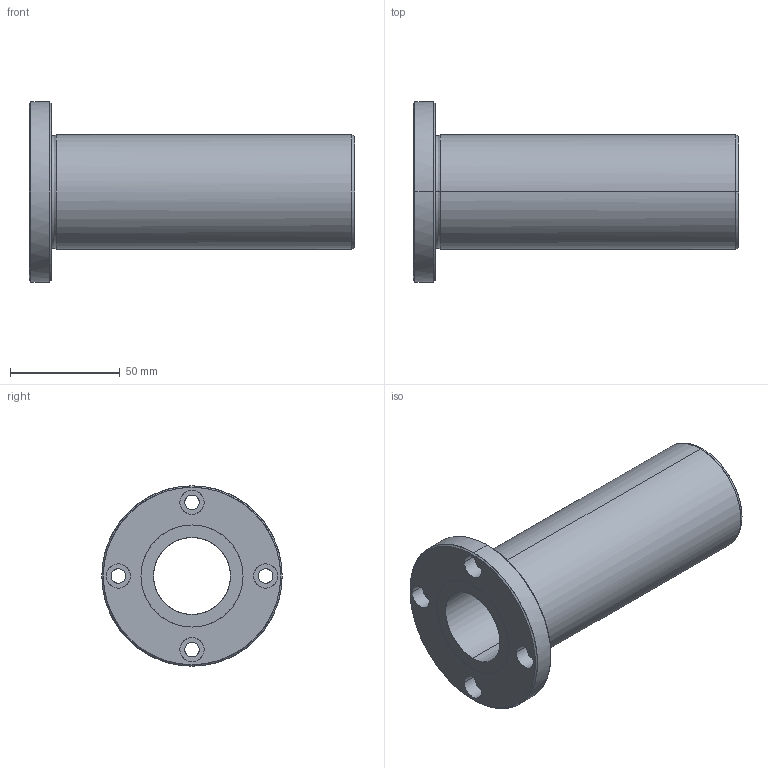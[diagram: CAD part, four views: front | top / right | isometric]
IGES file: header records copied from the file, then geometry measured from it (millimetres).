
Global section: file name: No Iges File Name specified; native system: AutoDesk Inventor R11.0; preprocessor: AutoDesk Inventor Iges Exporter R11.0; author: No Author specified; organization: No Organization specified; date: 20170921.140247; units: millimetre
Bounding box: 148 x 82 x 82 mm (x, y, z)
Surface area: 50714.3 mm2 (no closed solid volume)
Topology: 0 solids, 0 shells, 43 faces, 308 edges, 308 vertices
Faces by surface type: bspline 43
